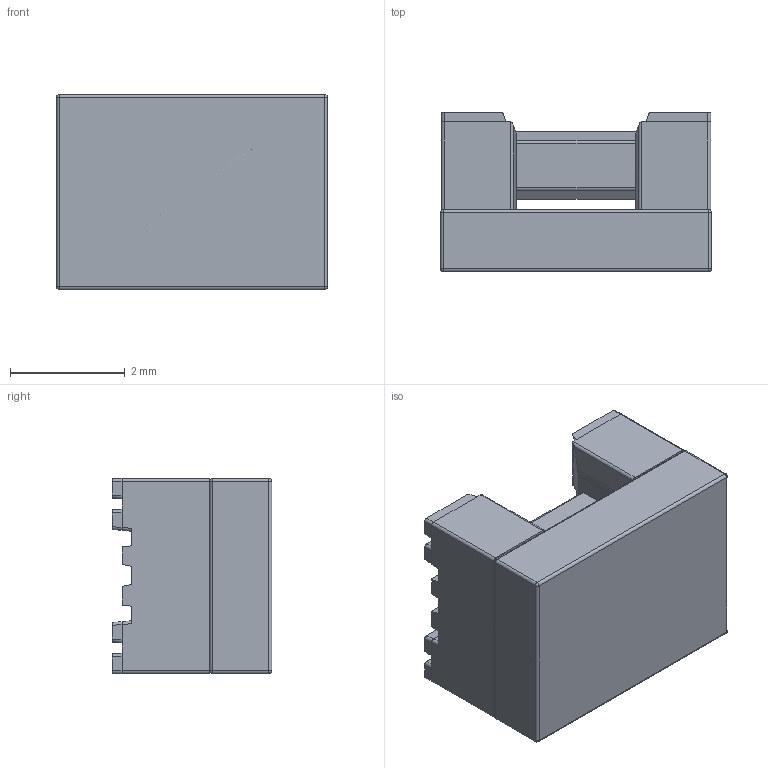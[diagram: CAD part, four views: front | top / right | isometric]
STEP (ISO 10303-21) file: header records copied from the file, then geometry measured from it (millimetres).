
FILE_DESCRIPTION (( 'STEP AP203' ), '1' );
FILE_NAME ('TC10000.STEP', '2021-06-16T15:22:35', ( '' ), ( '' ), 'SwSTEP 2.0', 'SolidWorks 2019', '' );
FILE_SCHEMA (( 'CONFIG_CONTROL_DESIGN' ));
Length unit declared in the file: inch
Products named in the file (3): 032-01821.101; 032-03735.005; TC10000
Assembly tree (2 placements, depth 2):
  TC10000
    032-03735.005
    032-01821.101
Bounding box: 4.72 x 2.78 x 3.4 mm (x, y, z)
Volume: 34.7 mm3; surface area: 106.2 mm2
Topology: 2 solids, 2 shells, 185 faces, 493 edges, 301 vertices
Faces by surface type: plane 96, cylinder 78, sphere 11
Entity records: 5888 total; most frequent: CARTESIAN_POINT 1255, ORIENTED_EDGE 964, DIRECTION 848, EDGE_CURVE 482, LINE 330, VECTOR 330, VERTEX_POINT 301, AXIS2_PLACEMENT_3D 259
